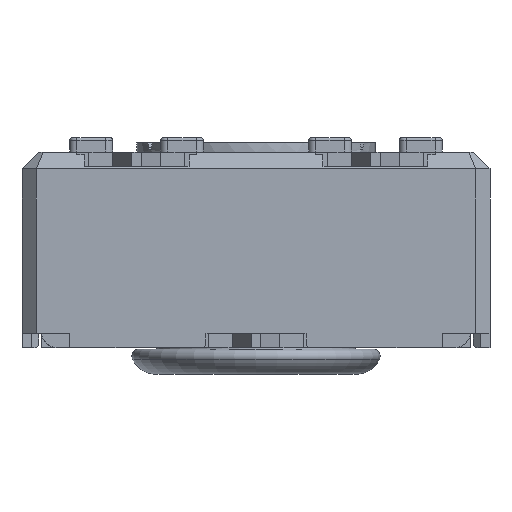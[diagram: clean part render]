
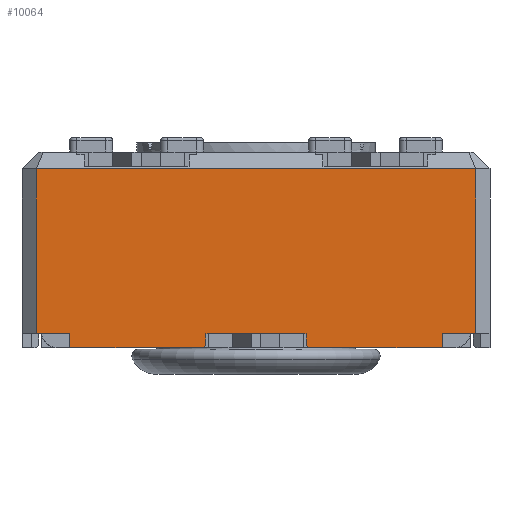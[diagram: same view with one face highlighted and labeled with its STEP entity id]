
A CAD part, front view. The second image highlights one B-rep face of the part: STEP entity #10064.
In plain terms, the highlighted planar face has unit normal (0, -1, 0).
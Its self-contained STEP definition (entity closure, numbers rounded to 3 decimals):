
#670=PLANE('',#10804);
#1189=LINE('',#14787,#2354);
#1291=LINE('',#15003,#2456);
#1297=LINE('',#15015,#2462);
#1305=LINE('',#15031,#2470);
#1311=LINE('',#15042,#2476);
#1503=LINE('',#15619,#2668);
#1509=LINE('',#15629,#2674);
#1512=LINE('',#15636,#2677);
#1525=LINE('',#15661,#2690);
#1581=LINE('',#15769,#2746);
#1583=LINE('',#15774,#2748);
#1585=LINE('',#15777,#2750);
#1587=LINE('',#15782,#2752);
#1777=LINE('',#16241,#2942);
#1803=LINE('',#16291,#2968);
#1805=LINE('',#16298,#2970);
#2354=VECTOR('',#11970,10.);
#2456=VECTOR('',#12150,10.);
#2462=VECTOR('',#12156,10.);
#2470=VECTOR('',#12166,10.);
#2476=VECTOR('',#12172,10.);
#2668=VECTOR('',#12696,10.);
#2674=VECTOR('',#12704,10.);
#2677=VECTOR('',#12711,10.);
#2690=VECTOR('',#12732,10.);
#2746=VECTOR('',#12832,10.);
#2748=VECTOR('',#12840,10.);
#2750=VECTOR('',#12844,10.);
#2752=VECTOR('',#12852,10.);
#2942=VECTOR('',#13290,10.);
#2968=VECTOR('',#13356,10.);
#2970=VECTOR('',#13368,10.);
#3556=FACE_OUTER_BOUND('',#4061,.T.);
#4061=EDGE_LOOP('',(#9389,#9390,#9391,#9392,#9393,#9394,#9395,#9396,#9397,
#9398,#9399,#9400,#9401,#9402,#9403,#9404));
#4754=VERTEX_POINT('',#14781);
#4755=VERTEX_POINT('',#14785);
#4830=VERTEX_POINT('',#15002);
#4835=VERTEX_POINT('',#15012);
#4836=VERTEX_POINT('',#15014);
#4842=VERTEX_POINT('',#15028);
#4843=VERTEX_POINT('',#15030);
#4848=VERTEX_POINT('',#15040);
#5012=VERTEX_POINT('',#15617);
#5013=VERTEX_POINT('',#15618);
#5016=VERTEX_POINT('',#15627);
#5017=VERTEX_POINT('',#15634);
#5018=VERTEX_POINT('',#15635);
#5026=VERTEX_POINT('',#15660);
#5176=VERTEX_POINT('',#16238);
#5177=VERTEX_POINT('',#16240);
#5859=EDGE_CURVE('',#4754,#4755,#1189,.T.);
#5967=EDGE_CURVE('',#4830,#4754,#1291,.T.);
#5973=EDGE_CURVE('',#4836,#4835,#1297,.T.);
#5981=EDGE_CURVE('',#4843,#4842,#1305,.T.);
#5987=EDGE_CURVE('',#4755,#4848,#1311,.T.);
#6257=EDGE_CURVE('',#5012,#5013,#1503,.T.);
#6263=EDGE_CURVE('',#5012,#5016,#1509,.T.);
#6266=EDGE_CURVE('',#5017,#5018,#1512,.T.);
#6279=EDGE_CURVE('',#5026,#5018,#1525,.T.);
#6335=EDGE_CURVE('',#4830,#5017,#1581,.T.);
#6337=EDGE_CURVE('',#4835,#5026,#1583,.T.);
#6339=EDGE_CURVE('',#4843,#5016,#1585,.T.);
#6341=EDGE_CURVE('',#4848,#5013,#1587,.T.);
#6568=EDGE_CURVE('',#5176,#5177,#1777,.T.);
#6596=EDGE_CURVE('',#5177,#4842,#1803,.T.);
#6598=EDGE_CURVE('',#5176,#4836,#1805,.T.);
#9389=ORIENTED_EDGE('',*,*,#6257,.F.);
#9390=ORIENTED_EDGE('',*,*,#6263,.T.);
#9391=ORIENTED_EDGE('',*,*,#6339,.F.);
#9392=ORIENTED_EDGE('',*,*,#5981,.T.);
#9393=ORIENTED_EDGE('',*,*,#6596,.F.);
#9394=ORIENTED_EDGE('',*,*,#6568,.F.);
#9395=ORIENTED_EDGE('',*,*,#6598,.T.);
#9396=ORIENTED_EDGE('',*,*,#5973,.T.);
#9397=ORIENTED_EDGE('',*,*,#6337,.T.);
#9398=ORIENTED_EDGE('',*,*,#6279,.T.);
#9399=ORIENTED_EDGE('',*,*,#6266,.F.);
#9400=ORIENTED_EDGE('',*,*,#6335,.F.);
#9401=ORIENTED_EDGE('',*,*,#5967,.T.);
#9402=ORIENTED_EDGE('',*,*,#5859,.T.);
#9403=ORIENTED_EDGE('',*,*,#5987,.T.);
#9404=ORIENTED_EDGE('',*,*,#6341,.T.);
#10064=ADVANCED_FACE('',(#3556),#670,.T.);
#10804=AXIS2_PLACEMENT_3D('',#16299,#13369,#13370);
#11970=DIRECTION('',(1.,0.,0.));
#12150=DIRECTION('',(1.,0.,0.));
#12156=DIRECTION('',(1.,0.,0.));
#12166=DIRECTION('',(1.,0.,0.));
#12172=DIRECTION('',(1.,0.,0.));
#12696=DIRECTION('',(-0.707,0.,0.707));
#12704=DIRECTION('',(1.,0.,0.));
#12711=DIRECTION('',(-0.707,0.,-0.707));
#12732=DIRECTION('',(1.,0.,0.));
#12832=DIRECTION('',(0.,0.,-1.));
#12840=DIRECTION('',(0.,0.,-1.));
#12844=DIRECTION('',(0.,0.,-1.));
#12852=DIRECTION('',(0.,0.,-1.));
#13290=DIRECTION('',(1.,0.,0.));
#13356=DIRECTION('',(0.,0.,-1.));
#13368=DIRECTION('',(0.,0.,-1.));
#13369=DIRECTION('center_axis',(0.,-1.,0.));
#13370=DIRECTION('ref_axis',(0.,0.,-1.));
#14781=CARTESIAN_POINT('',(-27.448,-17.99,-3.8));
#14785=CARTESIAN_POINT('',(-25.448,-17.99,-3.8));
#14787=CARTESIAN_POINT('',(-21.848,-17.99,-3.8));
#15002=CARTESIAN_POINT('',(-27.498,-17.99,-3.8));
#15003=CARTESIAN_POINT('',(-21.848,-17.99,-3.8));
#15012=CARTESIAN_POINT('',(-30.348,-17.99,-3.8));
#15014=CARTESIAN_POINT('',(-31.048,-17.99,-3.8));
#15015=CARTESIAN_POINT('',(-21.848,-17.99,-3.8));
#15028=CARTESIAN_POINT('',(-21.848,-17.99,-3.8));
#15030=CARTESIAN_POINT('',(-22.548,-17.99,-3.8));
#15031=CARTESIAN_POINT('',(-21.848,-17.99,-3.8));
#15040=CARTESIAN_POINT('',(-25.398,-17.99,-3.8));
#15042=CARTESIAN_POINT('',(-21.848,-17.99,-3.8));
#15617=CARTESIAN_POINT('',(-25.348,-17.99,-4.1));
#15618=CARTESIAN_POINT('',(-25.398,-17.99,-4.05));
#15619=CARTESIAN_POINT('',(-27.81,-17.99,-1.637));
#15627=CARTESIAN_POINT('',(-22.548,-17.99,-4.1));
#15629=CARTESIAN_POINT('',(-21.848,-17.99,-4.1));
#15634=CARTESIAN_POINT('',(-27.498,-17.99,-4.05));
#15635=CARTESIAN_POINT('',(-27.548,-17.99,-4.1));
#15636=CARTESIAN_POINT('',(-27.385,-17.99,-3.938));
#15660=CARTESIAN_POINT('',(-30.348,-17.99,-4.1));
#15661=CARTESIAN_POINT('',(-21.848,-17.99,-4.1));
#15769=CARTESIAN_POINT('',(-27.498,-17.99,-3.8));
#15774=CARTESIAN_POINT('',(-30.348,-17.99,-3.8));
#15777=CARTESIAN_POINT('',(-22.548,-17.99,-3.8));
#15782=CARTESIAN_POINT('',(-25.398,-17.99,-3.8));
#16238=CARTESIAN_POINT('',(-31.048,-17.99,-0.35));
#16240=CARTESIAN_POINT('',(-21.848,-17.99,-0.35));
#16241=CARTESIAN_POINT('',(-28.748,-17.99,-0.35));
#16291=CARTESIAN_POINT('',(-21.848,-17.99,0.));
#16298=CARTESIAN_POINT('',(-31.048,-17.99,0.));
#16299=CARTESIAN_POINT('Origin',(-31.048,-17.99,0.));
